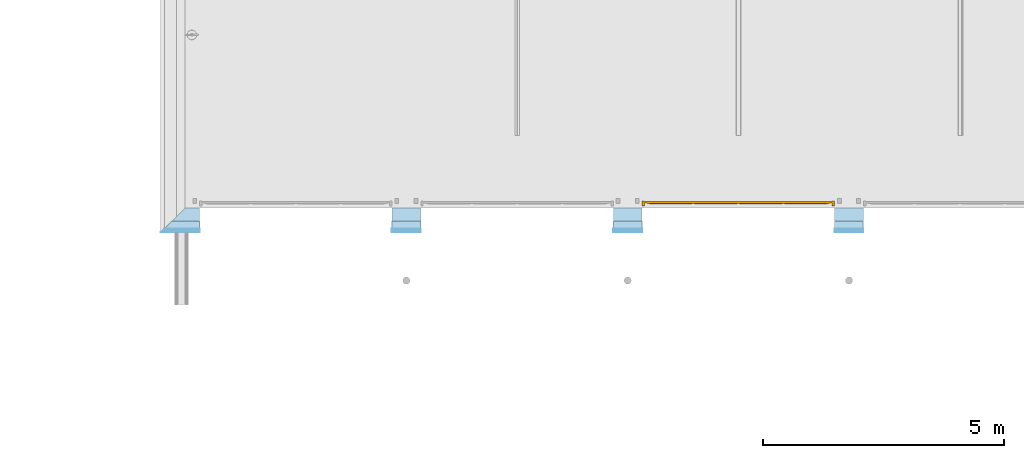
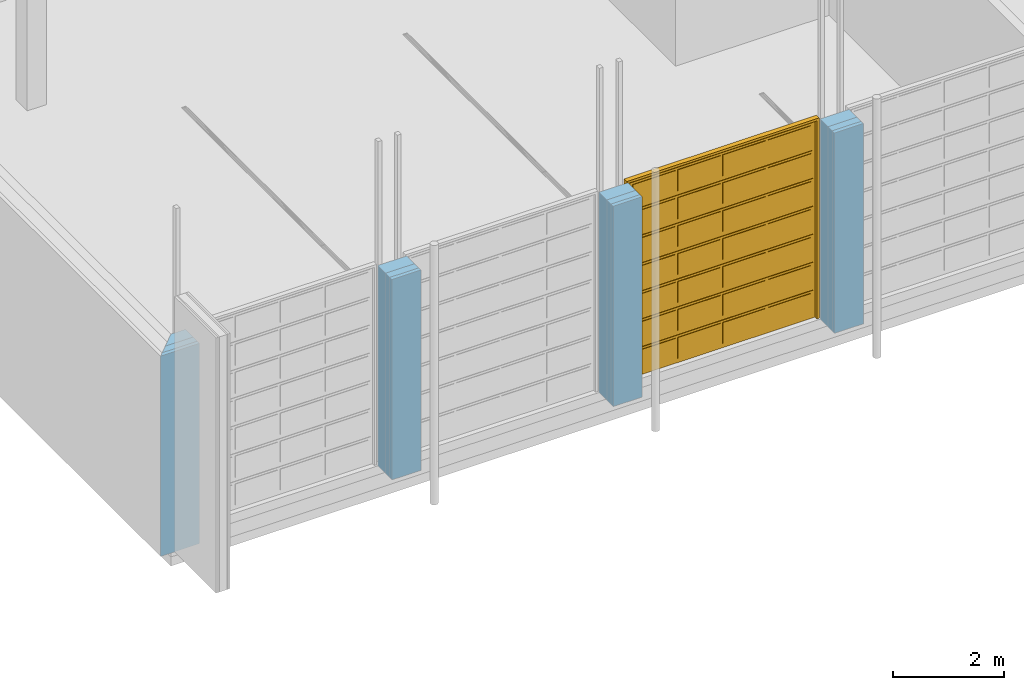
# One storey, part 22 of 112: 1 door, 4 openings, 1 element without a shape of its own, plus 3 elements that do not belong to this part.
"""IFC2X3 building model written with IfcOpenShell, lengths in millimetres."""

from ifc_helpers import new_model, entity, si_unit, converted_unit, derived_unit, money_unit, direction, frame, origin_with_axes, origin_2d_with_axis, place, context, subcontext, project, spatial, polyline, rectangle, outline, extrude, faceted_brep, source, transform, mapped, material, type_object, element, fill, aggregate, save


model = new_model("IFC2X3")

# Units and contexts
model_context = context("Model", 3, precision=0.01, world=origin_with_axes(), true_north=direction((0.0, 1.0)))
body_context = subcontext(model_context, "Body", "Model", "MODEL_VIEW")
ifc_project = project(units=[si_unit("LENGTHUNIT", "METRE", prefix="MILLI"), si_unit("AREAUNIT", "SQUARE_METRE"), si_unit("VOLUMEUNIT", "CUBIC_METRE"), converted_unit("PLANEANGLEUNIT", "DEGREE", entity("IfcPlaneAngleMeasure", 0.0174532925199), si_unit("PLANEANGLEUNIT", "RADIAN"), dimensions=[0, 0, 0, 0, 0, 0, 0]), si_unit("SOLIDANGLEUNIT", "STERADIAN"), money_unit("EUR"), converted_unit("TIMEUNIT", "Year", entity("IfcTimeMeasure", 31556926.0), si_unit("TIMEUNIT", "SECOND"), dimensions=[0, 0, 1, 0, 0, 0, 0]), si_unit("MASSUNIT", "GRAM", prefix="KILO"), si_unit("THERMODYNAMICTEMPERATUREUNIT", "DEGREE_CELSIUS"), si_unit("LUMINOUSINTENSITYUNIT", "LUMEN"), si_unit("ENERGYUNIT", "JOULE", prefix="MEGA"), derived_unit("THERMALCONDUCTANCEUNIT", [(si_unit("POWERUNIT", "WATT"), 1), (si_unit("LENGTHUNIT", "METRE"), -1), (si_unit("THERMODYNAMICTEMPERATUREUNIT", "KELVIN"), -1)]), derived_unit("SPECIFICHEATCAPACITYUNIT", [(si_unit("ENERGYUNIT", "JOULE"), 1), (si_unit("MASSUNIT", "GRAM", prefix="KILO"), -1), (si_unit("THERMODYNAMICTEMPERATUREUNIT", "KELVIN"), -1)]), derived_unit("MASSDENSITYUNIT", [(si_unit("MASSUNIT", "GRAM", prefix="KILO"), 1), (si_unit("VOLUMEUNIT", "CUBIC_METRE"), -1)])], contexts=[model_context])

# Site, building, storey
site_placement = place(None, origin_with_axes())
site = spatial("IfcSite", under=ifc_project, at=site_placement, Name="Politse- ja Piirivalveameti ning Päästeameti ühishoone", CompositionType="ELEMENT")
building_placement = place(site_placement, origin_with_axes())
building = spatial("IfcBuilding", under=site, at=building_placement, Name="Politse- ja Piirivalveameti ning Päästeameti ühishoone", CompositionType="ELEMENT")
storey_placement = place(building_placement, origin_with_axes())
storey = spatial("IfcBuildingStorey", under=building, at=storey_placement, Name="Esimene korrus", CompositionType="ELEMENT", Elevation=0.0)

# Door
door_style = type_object("IfcDoorStyle", Name="Vertical Sliding Garage Door 23", ConstructionType="NOTDEFINED", OperationType="ROLLINGUP", ParameterTakesPrecedence=False, Sizeable=False)
shared_shape = source(origin_with_axes(), body_context, "Body", "Brep", [
    faceted_brep([(-2000.0, 0.0, 0.0), (-1950.0, 0.0, 0.0), (-1950.0, -100.0, 0.0), (-2000.0, -100.0, 0.0), (-2000.0, 0.0, 4350.0), (-1950.0, 0.0, 4350.0), (-1950.0, -100.0, 4350.0), (-2000.0, -100.0, 4350.0)], [[[0, 1, 2, 3]], [[0, 4, 5, 1]], [[1, 5, 6, 2]], [[3, 2, 6, 7]], [[4, 0, 3, 7]], [[5, 4, 7, 6]]]),
    faceted_brep([(2000.0, 0.0, 0.0), (2000.0, 0.0, 4350.0), (2000.0, -100.0, 4350.0), (2000.0, -100.0, 0.0), (1950.0, 0.0, 0.0), (1950.0, 0.0, 4350.0), (1950.0, -100.0, 4350.0), (1950.0, -100.0, 0.0)], [[[0, 1, 2, 3]], [[0, 4, 5, 1]], [[1, 5, 6, 2]], [[3, 2, 6, 7]], [[4, 0, 3, 7]], [[5, 4, 7, 6]]]),
    faceted_brep([(-2000.0, 0.0, 4400.0), (-2000.0, 0.0, 4350.0), (-2000.0, -100.0, 4350.0), (-2000.0, -100.0, 4400.0), (2000.0, 0.0, 4400.0), (2000.0, 0.0, 4350.0), (1950.0, 0.0, 4350.0), (-1950.0, 0.0, 4350.0), (-1950.0, -100.0, 4350.0), (1950.0, -100.0, 4350.0), (2000.0, -100.0, 4350.0), (2000.0, -100.0, 4400.0)], [[[0, 1, 2, 3]], [[0, 4, 5, 6, 7, 1]], [[1, 7, 8, 2]], [[3, 2, 8, 9, 10, 11]], [[4, 0, 3, 11]], [[5, 4, 11, 10]], [[6, 5, 10, 9]], [[7, 6, 9, 8]]]),
    faceted_brep([(1950.0, -5.5, 0.0), (1950.0, -35.5, 0.0), (-1950.0, -35.5, 0.0), (-1950.0, -5.5, 0.0), (1950.0, -5.5, 4350.0), (1950.0, -35.5, 4350.0), (-1950.0, -35.5, 4350.0), (-1950.0, -5.5, 4350.0)], [[[0, 1, 2, 3]], [[4, 5, 1, 0]], [[1, 5, 6, 2]], [[3, 2, 6, 7]], [[0, 3, 7, 4]], [[7, 6, 5, 4]]]),
    faceted_brep([(-1900.0, -35.5, 50.0), (-1900.0, -35.5, 614.285714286), (1900.0, -35.5, 614.285714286), (1900.0, -35.5, 50.0), (-1900.0, -45.5, 50.0), (-1900.0, -45.5, 614.285714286), (1900.0, -45.5, 614.285714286), (1900.0, -45.5, 50.0)], [[[0, 1, 2, 3]], [[0, 4, 5, 1]], [[1, 5, 6, 2]], [[2, 6, 7, 3]], [[3, 7, 4, 0]], [[7, 6, 5, 4]]]),
    faceted_brep([(962.5, -45.5, 100.0), (962.5, -45.5, 564.285714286), (1850.0, -45.5, 564.285714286), (1850.0, -45.5, 100.0), (962.5, -55.5, 100.0), (962.5, -55.5, 564.285714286), (1850.0, -55.5, 564.285714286), (1850.0, -55.5, 100.0)], [[[0, 1, 2, 3]], [[0, 4, 5, 1]], [[1, 5, 6, 2]], [[2, 6, 7, 3]], [[3, 7, 4, 0]], [[7, 6, 5, 4]]]),
    faceted_brep([(25.0, -45.5, 100.0), (25.0, -45.5, 564.285714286), (912.5, -45.5, 564.285714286), (912.5, -45.5, 100.0), (25.0, -55.5, 100.0), (25.0, -55.5, 564.285714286), (912.5, -55.5, 564.285714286), (912.5, -55.5, 100.0)], [[[0, 1, 2, 3]], [[0, 4, 5, 1]], [[1, 5, 6, 2]], [[2, 6, 7, 3]], [[3, 7, 4, 0]], [[7, 6, 5, 4]]]),
    faceted_brep([(-912.5, -45.5, 100.0), (-912.5, -45.5, 564.285714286), (-25.0, -45.5, 564.285714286), (-25.0, -45.5, 100.0), (-912.5, -55.5, 100.0), (-912.5, -55.5, 564.285714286), (-25.0, -55.5, 564.285714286), (-25.0, -55.5, 100.0)], [[[0, 1, 2, 3]], [[0, 4, 5, 1]], [[1, 5, 6, 2]], [[2, 6, 7, 3]], [[3, 7, 4, 0]], [[7, 6, 5, 4]]]),
    faceted_brep([(-1850.0, -45.5, 100.0), (-1850.0, -45.5, 564.285714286), (-962.5, -45.5, 564.285714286), (-962.5, -45.5, 100.0), (-1850.0, -55.5, 100.0), (-1850.0, -55.5, 564.285714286), (-962.5, -55.5, 564.285714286), (-962.5, -55.5, 100.0)], [[[0, 1, 2, 3]], [[0, 4, 5, 1]], [[1, 5, 6, 2]], [[2, 6, 7, 3]], [[3, 7, 4, 0]], [[7, 6, 5, 4]]]),
    faceted_brep([(-1900.0, -35.5, 664.285714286), (-1900.0, -35.5, 1228.57142857), (1900.0, -35.5, 1228.57142857), (1900.0, -35.5, 664.285714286), (-1900.0, -45.5, 664.285714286), (-1900.0, -45.5, 1228.57142857), (1900.0, -45.5, 1228.57142857), (1900.0, -45.5, 664.285714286)], [[[0, 1, 2, 3]], [[0, 4, 5, 1]], [[1, 5, 6, 2]], [[2, 6, 7, 3]], [[3, 7, 4, 0]], [[7, 6, 5, 4]]]),
    faceted_brep([(962.5, -45.5, 714.285714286), (962.5, -45.5, 1178.57142857), (1850.0, -45.5, 1178.57142857), (1850.0, -45.5, 714.285714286), (962.5, -55.5, 714.285714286), (962.5, -55.5, 1178.57142857), (1850.0, -55.5, 1178.57142857), (1850.0, -55.5, 714.285714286)], [[[0, 1, 2, 3]], [[0, 4, 5, 1]], [[1, 5, 6, 2]], [[2, 6, 7, 3]], [[3, 7, 4, 0]], [[7, 6, 5, 4]]]),
    faceted_brep([(25.0, -45.5, 714.285714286), (25.0, -45.5, 1178.57142857), (912.5, -45.5, 1178.57142857), (912.5, -45.5, 714.285714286), (25.0, -55.5, 714.285714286), (25.0, -55.5, 1178.57142857), (912.5, -55.5, 1178.57142857), (912.5, -55.5, 714.285714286)], [[[0, 1, 2, 3]], [[0, 4, 5, 1]], [[1, 5, 6, 2]], [[2, 6, 7, 3]], [[3, 7, 4, 0]], [[7, 6, 5, 4]]]),
    faceted_brep([(-912.5, -45.5, 714.285714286), (-912.5, -45.5, 1178.57142857), (-25.0, -45.5, 1178.57142857), (-25.0, -45.5, 714.285714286), (-912.5, -55.5, 714.285714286), (-912.5, -55.5, 1178.57142857), (-25.0, -55.5, 1178.57142857), (-25.0, -55.5, 714.285714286)], [[[0, 1, 2, 3]], [[0, 4, 5, 1]], [[1, 5, 6, 2]], [[2, 6, 7, 3]], [[3, 7, 4, 0]], [[7, 6, 5, 4]]]),
    faceted_brep([(-1850.0, -45.5, 714.285714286), (-1850.0, -45.5, 1178.57142857), (-962.5, -45.5, 1178.57142857), (-962.5, -45.5, 714.285714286), (-1850.0, -55.5, 714.285714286), (-1850.0, -55.5, 1178.57142857), (-962.5, -55.5, 1178.57142857), (-962.5, -55.5, 714.285714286)], [[[0, 1, 2, 3]], [[0, 4, 5, 1]], [[1, 5, 6, 2]], [[2, 6, 7, 3]], [[3, 7, 4, 0]], [[7, 6, 5, 4]]]),
    faceted_brep([(-1900.0, -35.5, 1278.57142857), (-1900.0, -35.5, 1842.85714286), (1900.0, -35.5, 1842.85714286), (1900.0, -35.5, 1278.57142857), (-1900.0, -45.5, 1278.57142857), (-1900.0, -45.5, 1842.85714286), (1900.0, -45.5, 1842.85714286), (1900.0, -45.5, 1278.57142857)], [[[0, 1, 2, 3]], [[0, 4, 5, 1]], [[1, 5, 6, 2]], [[2, 6, 7, 3]], [[3, 7, 4, 0]], [[7, 6, 5, 4]]]),
    faceted_brep([(962.5, -45.5, 1328.57142857), (962.5, -45.5, 1792.85714286), (1850.0, -45.5, 1792.85714286), (1850.0, -45.5, 1328.57142857), (962.5, -55.5, 1328.57142857), (962.5, -55.5, 1792.85714286), (1850.0, -55.5, 1792.85714286), (1850.0, -55.5, 1328.57142857)], [[[0, 1, 2, 3]], [[0, 4, 5, 1]], [[1, 5, 6, 2]], [[2, 6, 7, 3]], [[3, 7, 4, 0]], [[7, 6, 5, 4]]]),
    faceted_brep([(25.0, -45.5, 1328.57142857), (25.0, -45.5, 1792.85714286), (912.5, -45.5, 1792.85714286), (912.5, -45.5, 1328.57142857), (25.0, -55.5, 1328.57142857), (25.0, -55.5, 1792.85714286), (912.5, -55.5, 1792.85714286), (912.5, -55.5, 1328.57142857)], [[[0, 1, 2, 3]], [[0, 4, 5, 1]], [[1, 5, 6, 2]], [[2, 6, 7, 3]], [[3, 7, 4, 0]], [[7, 6, 5, 4]]]),
    faceted_brep([(-912.5, -45.5, 1328.57142857), (-912.5, -45.5, 1792.85714286), (-25.0, -45.5, 1792.85714286), (-25.0, -45.5, 1328.57142857), (-912.5, -55.5, 1328.57142857), (-912.5, -55.5, 1792.85714286), (-25.0, -55.5, 1792.85714286), (-25.0, -55.5, 1328.57142857)], [[[0, 1, 2, 3]], [[0, 4, 5, 1]], [[1, 5, 6, 2]], [[2, 6, 7, 3]], [[3, 7, 4, 0]], [[7, 6, 5, 4]]]),
    faceted_brep([(-1850.0, -45.5, 1328.57142857), (-1850.0, -45.5, 1792.85714286), (-962.5, -45.5, 1792.85714286), (-962.5, -45.5, 1328.57142857), (-1850.0, -55.5, 1328.57142857), (-1850.0, -55.5, 1792.85714286), (-962.5, -55.5, 1792.85714286), (-962.5, -55.5, 1328.57142857)], [[[0, 1, 2, 3]], [[0, 4, 5, 1]], [[1, 5, 6, 2]], [[2, 6, 7, 3]], [[3, 7, 4, 0]], [[7, 6, 5, 4]]]),
    faceted_brep([(-1900.0, -35.5, 1892.85714286), (-1900.0, -35.5, 2457.14285714), (1900.0, -35.5, 2457.14285714), (1900.0, -35.5, 1892.85714286), (-1900.0, -45.5, 1892.85714286), (-1900.0, -45.5, 2457.14285714), (1900.0, -45.5, 2457.14285714), (1900.0, -45.5, 1892.85714286)], [[[0, 1, 2, 3]], [[0, 4, 5, 1]], [[1, 5, 6, 2]], [[2, 6, 7, 3]], [[3, 7, 4, 0]], [[7, 6, 5, 4]]]),
    faceted_brep([(962.5, -45.5, 1942.85714286), (962.5, -45.5, 2407.14285714), (1850.0, -45.5, 2407.14285714), (1850.0, -45.5, 1942.85714286), (962.5, -55.5, 1942.85714286), (962.5, -55.5, 2407.14285714), (1850.0, -55.5, 2407.14285714), (1850.0, -55.5, 1942.85714286)], [[[0, 1, 2, 3]], [[0, 4, 5, 1]], [[1, 5, 6, 2]], [[2, 6, 7, 3]], [[3, 7, 4, 0]], [[7, 6, 5, 4]]]),
    faceted_brep([(25.0, -45.5, 1942.85714286), (25.0, -45.5, 2407.14285714), (912.5, -45.5, 2407.14285714), (912.5, -45.5, 1942.85714286), (25.0, -55.5, 1942.85714286), (25.0, -55.5, 2407.14285714), (912.5, -55.5, 2407.14285714), (912.5, -55.5, 1942.85714286)], [[[0, 1, 2, 3]], [[0, 4, 5, 1]], [[1, 5, 6, 2]], [[2, 6, 7, 3]], [[3, 7, 4, 0]], [[7, 6, 5, 4]]]),
    faceted_brep([(-912.5, -45.5, 1942.85714286), (-912.5, -45.5, 2407.14285714), (-25.0, -45.5, 2407.14285714), (-25.0, -45.5, 1942.85714286), (-912.5, -55.5, 1942.85714286), (-912.5, -55.5, 2407.14285714), (-25.0, -55.5, 2407.14285714), (-25.0, -55.5, 1942.85714286)], [[[0, 1, 2, 3]], [[0, 4, 5, 1]], [[1, 5, 6, 2]], [[2, 6, 7, 3]], [[3, 7, 4, 0]], [[7, 6, 5, 4]]]),
    faceted_brep([(-1850.0, -45.5, 1942.85714286), (-1850.0, -45.5, 2407.14285714), (-962.5, -45.5, 2407.14285714), (-962.5, -45.5, 1942.85714286), (-1850.0, -55.5, 1942.85714286), (-1850.0, -55.5, 2407.14285714), (-962.5, -55.5, 2407.14285714), (-962.5, -55.5, 1942.85714286)], [[[0, 1, 2, 3]], [[0, 4, 5, 1]], [[1, 5, 6, 2]], [[2, 6, 7, 3]], [[3, 7, 4, 0]], [[7, 6, 5, 4]]]),
    faceted_brep([(-1900.0, -35.5, 2507.14285714), (-1900.0, -35.5, 3071.42857143), (1900.0, -35.5, 3071.42857143), (1900.0, -35.5, 2507.14285714), (-1900.0, -45.5, 2507.14285714), (-1900.0, -45.5, 3071.42857143), (1900.0, -45.5, 3071.42857143), (1900.0, -45.5, 2507.14285714)], [[[0, 1, 2, 3]], [[0, 4, 5, 1]], [[1, 5, 6, 2]], [[2, 6, 7, 3]], [[3, 7, 4, 0]], [[7, 6, 5, 4]]]),
    faceted_brep([(962.5, -45.5, 2557.14285714), (962.5, -45.5, 3021.42857143), (1850.0, -45.5, 3021.42857143), (1850.0, -45.5, 2557.14285714), (962.5, -55.5, 2557.14285714), (962.5, -55.5, 3021.42857143), (1850.0, -55.5, 3021.42857143), (1850.0, -55.5, 2557.14285714)], [[[0, 1, 2, 3]], [[0, 4, 5, 1]], [[1, 5, 6, 2]], [[2, 6, 7, 3]], [[3, 7, 4, 0]], [[7, 6, 5, 4]]]),
    faceted_brep([(25.0, -45.5, 2557.14285714), (25.0, -45.5, 3021.42857143), (912.5, -45.5, 3021.42857143), (912.5, -45.5, 2557.14285714), (25.0, -55.5, 2557.14285714), (25.0, -55.5, 3021.42857143), (912.5, -55.5, 3021.42857143), (912.5, -55.5, 2557.14285714)], [[[0, 1, 2, 3]], [[0, 4, 5, 1]], [[1, 5, 6, 2]], [[2, 6, 7, 3]], [[3, 7, 4, 0]], [[7, 6, 5, 4]]]),
    faceted_brep([(-912.5, -45.5, 2557.14285714), (-912.5, -45.5, 3021.42857143), (-25.0, -45.5, 3021.42857143), (-25.0, -45.5, 2557.14285714), (-912.5, -55.5, 2557.14285714), (-912.5, -55.5, 3021.42857143), (-25.0, -55.5, 3021.42857143), (-25.0, -55.5, 2557.14285714)], [[[0, 1, 2, 3]], [[0, 4, 5, 1]], [[1, 5, 6, 2]], [[2, 6, 7, 3]], [[3, 7, 4, 0]], [[7, 6, 5, 4]]]),
    faceted_brep([(-1850.0, -45.5, 2557.14285714), (-1850.0, -45.5, 3021.42857143), (-962.5, -45.5, 3021.42857143), (-962.5, -45.5, 2557.14285714), (-1850.0, -55.5, 2557.14285714), (-1850.0, -55.5, 3021.42857143), (-962.5, -55.5, 3021.42857143), (-962.5, -55.5, 2557.14285714)], [[[0, 1, 2, 3]], [[0, 4, 5, 1]], [[1, 5, 6, 2]], [[2, 6, 7, 3]], [[3, 7, 4, 0]], [[7, 6, 5, 4]]]),
    faceted_brep([(-1900.0, -35.5, 3121.42857143), (-1900.0, -35.5, 3685.71428571), (1900.0, -35.5, 3685.71428571), (1900.0, -35.5, 3121.42857143), (-1900.0, -45.5, 3121.42857143), (-1900.0, -45.5, 3685.71428571), (1900.0, -45.5, 3685.71428571), (1900.0, -45.5, 3121.42857143)], [[[0, 1, 2, 3]], [[0, 4, 5, 1]], [[1, 5, 6, 2]], [[2, 6, 7, 3]], [[3, 7, 4, 0]], [[7, 6, 5, 4]]]),
    faceted_brep([(962.5, -45.5, 3171.42857143), (962.5, -45.5, 3635.71428571), (1850.0, -45.5, 3635.71428571), (1850.0, -45.5, 3171.42857143), (962.5, -55.5, 3171.42857143), (962.5, -55.5, 3635.71428571), (1850.0, -55.5, 3635.71428571), (1850.0, -55.5, 3171.42857143)], [[[0, 1, 2, 3]], [[0, 4, 5, 1]], [[1, 5, 6, 2]], [[2, 6, 7, 3]], [[3, 7, 4, 0]], [[7, 6, 5, 4]]]),
    faceted_brep([(25.0, -45.5, 3171.42857143), (25.0, -45.5, 3635.71428571), (912.5, -45.5, 3635.71428571), (912.5, -45.5, 3171.42857143), (25.0, -55.5, 3171.42857143), (25.0, -55.5, 3635.71428571), (912.5, -55.5, 3635.71428571), (912.5, -55.5, 3171.42857143)], [[[0, 1, 2, 3]], [[0, 4, 5, 1]], [[1, 5, 6, 2]], [[2, 6, 7, 3]], [[3, 7, 4, 0]], [[7, 6, 5, 4]]]),
    faceted_brep([(-912.5, -45.5, 3171.42857143), (-912.5, -45.5, 3635.71428571), (-25.0, -45.5, 3635.71428571), (-25.0, -45.5, 3171.42857143), (-912.5, -55.5, 3171.42857143), (-912.5, -55.5, 3635.71428571), (-25.0, -55.5, 3635.71428571), (-25.0, -55.5, 3171.42857143)], [[[0, 1, 2, 3]], [[0, 4, 5, 1]], [[1, 5, 6, 2]], [[2, 6, 7, 3]], [[3, 7, 4, 0]], [[7, 6, 5, 4]]]),
    faceted_brep([(-1850.0, -45.5, 3171.42857143), (-1850.0, -45.5, 3635.71428571), (-962.5, -45.5, 3635.71428571), (-962.5, -45.5, 3171.42857143), (-1850.0, -55.5, 3171.42857143), (-1850.0, -55.5, 3635.71428571), (-962.5, -55.5, 3635.71428571), (-962.5, -55.5, 3171.42857143)], [[[0, 1, 2, 3]], [[0, 4, 5, 1]], [[1, 5, 6, 2]], [[2, 6, 7, 3]], [[3, 7, 4, 0]], [[7, 6, 5, 4]]]),
    faceted_brep([(-1900.0, -35.5, 3735.71428571), (-1900.0, -35.5, 4300.0), (1900.0, -35.5, 4300.0), (1900.0, -35.5, 3735.71428571), (-1900.0, -45.5, 3735.71428571), (-1900.0, -45.5, 4300.0), (1900.0, -45.5, 4300.0), (1900.0, -45.5, 3735.71428571)], [[[0, 1, 2, 3]], [[0, 4, 5, 1]], [[1, 5, 6, 2]], [[2, 6, 7, 3]], [[3, 7, 4, 0]], [[7, 6, 5, 4]]]),
    faceted_brep([(962.5, -45.5, 3785.71428571), (962.5, -45.5, 4250.0), (1850.0, -45.5, 4250.0), (1850.0, -45.5, 3785.71428571), (962.5, -55.5, 3785.71428571), (962.5, -55.5, 4250.0), (1850.0, -55.5, 4250.0), (1850.0, -55.5, 3785.71428571)], [[[0, 1, 2, 3]], [[0, 4, 5, 1]], [[1, 5, 6, 2]], [[2, 6, 7, 3]], [[3, 7, 4, 0]], [[7, 6, 5, 4]]]),
    faceted_brep([(25.0, -45.5, 3785.71428571), (25.0, -45.5, 4250.0), (912.5, -45.5, 4250.0), (912.5, -45.5, 3785.71428571), (25.0, -55.5, 3785.71428571), (25.0, -55.5, 4250.0), (912.5, -55.5, 4250.0), (912.5, -55.5, 3785.71428571)], [[[0, 1, 2, 3]], [[0, 4, 5, 1]], [[1, 5, 6, 2]], [[2, 6, 7, 3]], [[3, 7, 4, 0]], [[7, 6, 5, 4]]]),
    faceted_brep([(-912.5, -45.5, 3785.71428571), (-912.5, -45.5, 4250.0), (-25.0, -45.5, 4250.0), (-25.0, -45.5, 3785.71428571), (-912.5, -55.5, 3785.71428571), (-912.5, -55.5, 4250.0), (-25.0, -55.5, 4250.0), (-25.0, -55.5, 3785.71428571)], [[[0, 1, 2, 3]], [[0, 4, 5, 1]], [[1, 5, 6, 2]], [[2, 6, 7, 3]], [[3, 7, 4, 0]], [[7, 6, 5, 4]]]),
    faceted_brep([(-1850.0, -45.5, 3785.71428571), (-1850.0, -45.5, 4250.0), (-962.5, -45.5, 4250.0), (-962.5, -45.5, 3785.71428571), (-1850.0, -55.5, 3785.71428571), (-1850.0, -55.5, 4250.0), (-962.5, -55.5, 4250.0), (-962.5, -55.5, 3785.71428571)], [[[0, 1, 2, 3]], [[0, 4, 5, 1]], [[1, 5, 6, 2]], [[2, 6, 7, 3]], [[3, 7, 4, 0]], [[7, 6, 5, 4]]]),
])
wall_placement = place(storey_placement, origin_with_axes())
opening_2_placement = place(wall_placement, frame((11499.3611204, 0.0, 0.0), z_axis=(0.0, 0.0, 1.0), x_axis=(1.0, 0.0, 0.0)))
door_placement = place(opening_2_placement, frame((-2000.0, 0.0, 0.0), z_axis=(0.0, 0.0, 1.0), x_axis=(1.0, 0.0, 0.0)))
door = element("IfcDoor", 1, at=door_placement, inside=storey, type_object=door_style, Name="TV-07", ObjectType="DOOR", OverallHeight=4400.0, OverallWidth=4000.0, context=body_context, shape_type="MappedRepresentation", body=[
    mapped(shared_shape, transform((2000.0, 140.0, 0.0))),
])

# Wall, openings
wall_type = type_object("IfcWallType", Name="VS-14_välissein gar uste vahel 510", PredefinedType="NOTDEFINED")
wall = element("IfcWall", 2, at=wall_placement, inside=storey, type_object=wall_type, Name="VS-14")
opening_1_placement = place(wall_placement, frame((6899.66559551, 0.0, 0.0), z_axis=(0.0, 0.0, 1.0), x_axis=(1.0, 0.0, 0.0)))
element("IfcOpeningElement", 3, at=opening_1_placement, cuts=wall, Name="TV-07", context=body_context, shape_type="SweptSolid", body=[
    extrude(rectangle(XDim=4000.0, YDim=4400.0, at=origin_2d_with_axis()), frame((0.0, 40.0, 2200.0), z_axis=(0.0, -1.0, 0.0), x_axis=(-1.0, 0.0, 0.0)), (0.0, 0.0, 1.0), 1060.0),
    extrude(outline(polyline([(-2000.0, 8800.0), (-2000.0, 4400.0), (2000.0, 4400.0), (2000.0, 8800.0), (-2000.0, 8800.0)])), frame((0.0, 135.0, 0.0), z_axis=(0.0, 1.0, 0.0), x_axis=(-1.0, 0.0, 0.0)), (0.0, 0.0, -1.0), 45.0),
    extrude(rectangle(XDim=4000.0, YDim=4400.0, at=origin_2d_with_axis()), frame((0.0, 40.0, 2200.0), z_axis=(0.0, 1.0, 0.0), x_axis=(-1.0, 0.0, 0.0)), (0.0, 0.0, 1.0), 550.0),
])
opening_2 = element("IfcOpeningElement", 4, at=opening_2_placement, cuts=wall, Name="TV-07", context=body_context, shape_type="SweptSolid", body=[
    extrude(rectangle(XDim=4000.0, YDim=4400.0, at=origin_2d_with_axis()), frame((0.0, 40.0, 2200.0), z_axis=(0.0, 1.0, 0.0), x_axis=(1.0, 0.0, 0.0)), (0.0, 0.0, -1.0), 1060.0),
    extrude(outline(polyline([(-2000.0, 8800.0), (-2000.0, 4400.0), (2000.0, 4400.0), (2000.0, 8800.0), (-2000.0, 8800.0)])), frame((0.0, 135.0, 0.0), z_axis=(0.0, -1.0, 0.0), x_axis=(1.0, 0.0, 0.0)), (0.0, 0.0, 1.0), 45.0),
    extrude(rectangle(XDim=4000.0, YDim=4400.0, at=origin_2d_with_axis()), frame((0.0, 40.0, 2200.0), z_axis=(0.0, -1.0, 0.0), x_axis=(1.0, 0.0, 0.0)), (0.0, 0.0, -1.0), 550.0),
])

fill(opening_2, door)

# Opening
opening_3_placement = place(wall_placement, frame((16099.6782559, 0.0, 0.0), z_axis=(0.0, 0.0, 1.0), x_axis=(1.0, 0.0, 0.0)))
element("IfcOpeningElement", 5, at=opening_3_placement, cuts=wall, Name="TV-07", context=body_context, shape_type="SweptSolid", body=[
    extrude(rectangle(XDim=4000.0, YDim=4400.0, at=origin_2d_with_axis()), frame((0.0, 40.0, 2200.0), z_axis=(0.0, -1.0, 0.0), x_axis=(-1.0, 0.0, 0.0)), (0.0, 0.0, 1.0), 1060.0),
    extrude(outline(polyline([(-2000.0, 8800.0), (-2000.0, 4400.0), (2000.0, 4400.0), (2000.0, 8800.0), (-2000.0, 8800.0)])), frame((0.0, 135.0, 0.0), z_axis=(0.0, 1.0, 0.0), x_axis=(-1.0, 0.0, 0.0)), (0.0, 0.0, -1.0), 45.0),
    extrude(rectangle(XDim=4000.0, YDim=4400.0, at=origin_2d_with_axis()), frame((0.0, 40.0, 2200.0), z_axis=(0.0, 1.0, 0.0), x_axis=(-1.0, 0.0, 0.0)), (0.0, 0.0, 1.0), 550.0),
])

opening_4_placement = place(wall_placement, frame((2299.34846005, 0.0, 0.0), z_axis=(0.0, 0.0, 1.0), x_axis=(1.0, 0.0, 0.0)))
element("IfcOpeningElement", 6, at=opening_4_placement, cuts=wall, Name="TV-07", context=body_context, shape_type="SweptSolid", body=[
    extrude(rectangle(XDim=4000.0, YDim=4400.0, at=origin_2d_with_axis()), frame((0.0, 40.0, 2200.0), z_axis=(0.0, 1.0, 0.0), x_axis=(1.0, 0.0, 0.0)), (0.0, 0.0, -1.0), 1060.0),
    extrude(outline(polyline([(-2000.0, 8800.0), (-2000.0, 4400.0), (2000.0, 4400.0), (2000.0, 8800.0), (-2000.0, 8800.0)])), frame((0.0, 135.0, 0.0), z_axis=(0.0, -1.0, 0.0), x_axis=(1.0, 0.0, 0.0)), (0.0, 0.0, 1.0), 45.0),
    extrude(rectangle(XDim=4000.0, YDim=4400.0, at=origin_2d_with_axis()), frame((0.0, 40.0, 2200.0), z_axis=(0.0, -1.0, 0.0), x_axis=(1.0, 0.0, 0.0)), (0.0, 0.0, -1.0), 550.0),
])

# Building element part
ifc_material_1 = material(Name="KON-04_Betoon - Konstuktsioon")
building_element_part_1_placement = place(wall_placement, origin_with_axes())
building_element_part_1 = element("IfcBuildingElementPart", 7, at=building_element_part_1_placement, material=ifc_material_1, Name="KON-04_Betoon - Konstuktsioon", context=body_context, shape_type="SweptSolid", body=[
    extrude(outline(polyline([(-280.0, -280.0), (18099.6782559, -280.0), (18099.6782559, 0.0), (0.0, 0.0), (-280.0, -280.0)])), origin_with_axes(), (0.0, 0.0, 1.0), 4400.0),
])

ifc_material_2 = material(Name="SOJ-06_Soojustus - Plastik Kõva")
building_element_part_2_placement = place(wall_placement, origin_with_axes())
building_element_part_2 = element("IfcBuildingElementPart", 8, at=building_element_part_2_placement, material=ifc_material_2, Name="SOJ-06_Soojustus - Plastik Kõva", context=body_context, shape_type="SweptSolid", body=[
    extrude(outline(polyline([(-430.0, -430.0), (18099.6782559, -430.0), (18099.6782559, -280.0), (-280.0, -280.0), (-430.0, -430.0)])), origin_with_axes(), (0.0, 0.0, 1.0), 4400.0),
])

building_element_part_3_placement = place(wall_placement, origin_with_axes())
building_element_part_3 = element("IfcBuildingElementPart", 9, at=building_element_part_3_placement, material=ifc_material_1, Name="KON-04_Betoon - Konstuktsioon", context=body_context, shape_type="SweptSolid", body=[
    extrude(outline(polyline([(-510.0, -510.0), (18099.6782559, -510.0), (18099.6782559, -430.0), (-430.0, -430.0), (-510.0, -510.0)])), origin_with_axes(), (0.0, 0.0, 1.0), 4400.0),
])

aggregate(wall, [building_element_part_1, building_element_part_2, building_element_part_3])

save(model, "model.ifc")
